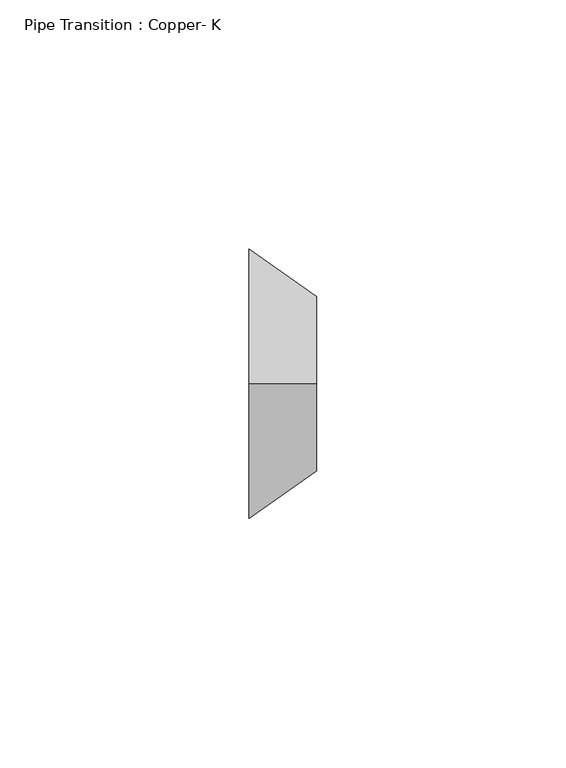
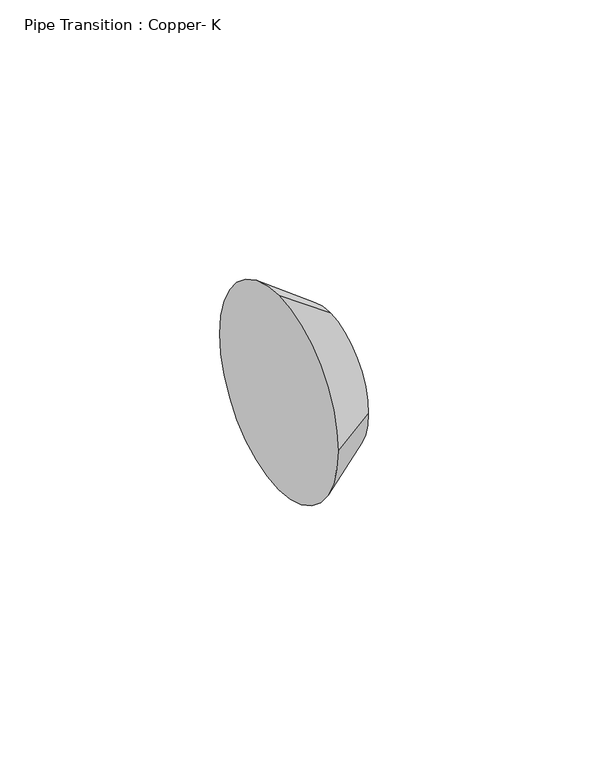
"""IFC4 building model written with IfcOpenShell, lengths in millimetres: pipe fitting geometry, Pipe Transition : Copper- K."""

from ifc_helpers import new_model, si_unit, frame, origin, place, context, project, spatial, polyline, circle_curve, source, transform, mapped, element, save
from ifc_brep_helpers import plane_surface, revolved_surface, advanced_brep


def pipe_transition_copper_k_17d9deb3(model_context):
    return source(origin(), model_context, "Body", "AdvancedBrep", [
        advanced_brep(
        [(13.49375, 0.0, 17.4625), (13.49375, -17.4625, 0.0), (13.49375, 0.0, -17.4625), (13.49375, 17.4625, 0.0), (0.0, 0.0, 26.9875), (0.0, 26.9875, 0.0), (0.0, 0.0, -26.9875), (0.0, -26.9875, 0.0)],
        [
            (0, 1, circle_curve(frame((13.49375, 0.0, 0.0), z_axis=(1.0, 0.0, 0.0), x_axis=(0.0, -1.0, 0.0)), 17.4625)),
            (1, 2, circle_curve(frame((13.49375, 0.0, 0.0), z_axis=(1.0, 0.0, 0.0), x_axis=(0.0, 0.0, -1.0)), 17.4625)),
            (2, 3, circle_curve(frame((13.49375, 0.0, 0.0), z_axis=(1.0, 0.0, 0.0), x_axis=(0.0, 1.0, 0.0)), 17.4625)),
            (3, 0, circle_curve(frame((13.49375, 0.0, 0.0), z_axis=(1.0, 0.0, 0.0), x_axis=(0.0, 0.0, 1.0)), 17.4625)),
            (4, 5, circle_curve(frame((0.0, 0.0, 0.0), z_axis=(-1.0, 0.0, 0.0), x_axis=(0.0, 0.0, 1.0)), 26.9875)),
            (5, 6, circle_curve(frame((0.0, 0.0, 0.0), z_axis=(-1.0, 0.0, 0.0), x_axis=(0.0, 1.0, 0.0)), 26.9875)),
            (6, 7, circle_curve(frame((0.0, 0.0, 0.0), z_axis=(-1.0, 0.0, 0.0), x_axis=(0.0, 0.0, -1.0)), 26.9875)),
            (7, 4, circle_curve(frame((0.0, 0.0, 0.0), z_axis=(-1.0, 0.0, 0.0), x_axis=(0.0, -1.0, 0.0)), 26.9875)),
            (4, 0),
            (3, 5),
            (2, 6),
            (1, 7),
        ],
        [
            plane_surface(frame((13.49375, 0.0, 0.0), z_axis=(1.0, 0.0, 0.0), x_axis=(0.0, 1.0, 0.0))),
            plane_surface(frame((0.0, 0.0, 0.0), z_axis=(-1.0, 0.0, 0.0), x_axis=(0.0, 1.0, 0.0))),
            revolved_surface(polyline([(13.493749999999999, 0.0, 17.4625000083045), (0.0, 0.0, 26.9875)]), (38.2322917, 0.0, 0.0), (-1.0, 0.0, 0.0)),
            revolved_surface(polyline([(13.493749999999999, 17.4625000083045, 0.0), (0.0, 26.9875, 0.0)]), (38.2322917, 0.0, 0.0), (-1.0, 0.0, 0.0)),
            revolved_surface(polyline([(13.493749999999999, 0.0, -17.4625000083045), (0.0, 0.0, -26.9875)]), (38.2322917, 0.0, 0.0), (-1.0, 0.0, 0.0)),
            revolved_surface(polyline([(13.493749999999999, -17.4625000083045, 0.0), (0.0, -26.9875, 0.0)]), (38.2322917, 0.0, 0.0), (-1.0, 0.0, 0.0)),
        ],
        [
            (0, [[1, 2, 3, 4]]),
            (1, [[5, 6, 7, 8]]),
            (2, [[9, -4, 10, -5]]),
            (3, [[-10, -3, 11, -6]]),
            (4, [[-11, -2, 12, -7]]),
            (5, [[-12, -1, -9, -8]]),
        ],
    ),
        advanced_brep(
        [(13.49375, 0.0, 17.4625), (13.49375, -17.4625, 0.0), (13.49375, 0.0, -17.4625), (13.49375, 17.4625, 0.0), (0.0, 0.0, 26.9875), (0.0, 26.9875, 0.0), (0.0, 0.0, -26.9875), (0.0, -26.9875, 0.0)],
        [
            (0, 1, circle_curve(frame((13.49375, 0.0, 0.0), z_axis=(1.0, 0.0, 0.0), x_axis=(0.0, -1.0, 0.0)), 17.4625)),
            (1, 2, circle_curve(frame((13.49375, 0.0, 0.0), z_axis=(1.0, 0.0, 0.0), x_axis=(0.0, 0.0, -1.0)), 17.4625)),
            (2, 3, circle_curve(frame((13.49375, 0.0, 0.0), z_axis=(1.0, 0.0, 0.0), x_axis=(0.0, 1.0, 0.0)), 17.4625)),
            (3, 0, circle_curve(frame((13.49375, 0.0, 0.0), z_axis=(1.0, 0.0, 0.0), x_axis=(0.0, 0.0, 1.0)), 17.4625)),
            (4, 5, circle_curve(frame((0.0, 0.0, 0.0), z_axis=(-1.0, 0.0, 0.0), x_axis=(0.0, 0.0, 1.0)), 26.9875)),
            (5, 6, circle_curve(frame((0.0, 0.0, 0.0), z_axis=(-1.0, 0.0, 0.0), x_axis=(0.0, 1.0, 0.0)), 26.9875)),
            (6, 7, circle_curve(frame((0.0, 0.0, 0.0), z_axis=(-1.0, 0.0, 0.0), x_axis=(0.0, 0.0, -1.0)), 26.9875)),
            (7, 4, circle_curve(frame((0.0, 0.0, 0.0), z_axis=(-1.0, 0.0, 0.0), x_axis=(0.0, -1.0, 0.0)), 26.9875)),
            (4, 0),
            (3, 5),
            (2, 6),
            (1, 7),
        ],
        [
            plane_surface(frame((13.49375, 0.0, 0.0), z_axis=(1.0, 0.0, 0.0), x_axis=(0.0, 1.0, 0.0))),
            plane_surface(frame((0.0, 0.0, 0.0), z_axis=(-1.0, 0.0, 0.0), x_axis=(0.0, 1.0, 0.0))),
            revolved_surface(polyline([(13.493749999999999, 0.0, 17.4625000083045), (0.0, 0.0, 26.9875)]), (38.2322917, 0.0, 0.0), (-1.0, 0.0, 0.0)),
            revolved_surface(polyline([(13.493749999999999, 17.4625000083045, 0.0), (0.0, 26.9875, 0.0)]), (38.2322917, 0.0, 0.0), (-1.0, 0.0, 0.0)),
            revolved_surface(polyline([(13.493749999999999, 0.0, -17.4625000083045), (0.0, 0.0, -26.9875)]), (38.2322917, 0.0, 0.0), (-1.0, 0.0, 0.0)),
            revolved_surface(polyline([(13.493749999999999, -17.4625000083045, 0.0), (0.0, -26.9875, 0.0)]), (38.2322917, 0.0, 0.0), (-1.0, 0.0, 0.0)),
        ],
        [
            (0, [[1, 2, 3, 4]]),
            (1, [[5, 6, 7, 8]]),
            (2, [[9, -4, 10, -5]]),
            (3, [[-10, -3, 11, -6]]),
            (4, [[-11, -2, 12, -7]]),
            (5, [[-12, -1, -9, -8]]),
        ],
    ),
    ])


if __name__ == "__main__":
    model = new_model("IFC4")
    model_context = context("Model", 3, world=origin())
    ifc_project = project(units=[si_unit("LENGTHUNIT", "METRE", prefix="MILLI")], contexts=[model_context])
    site = spatial("IfcSite", under=ifc_project)
    building = spatial("IfcBuilding", under=site)
    placement = place(None, origin())
    pipe_transition_copper_k_shape = pipe_transition_copper_k_17d9deb3(model_context)
    element("IfcPipeFitting", 1, ObjectType="Pipe Transition : Copper- K", at=placement, inside=building, context=model_context, shape_type="MappedRepresentation", body=[
        mapped(pipe_transition_copper_k_shape, transform((0.0, 0.0, 0.0), x_axis=(1.0, 0.0, 0.0), y_axis=(0.0, 1.0, 0.0), z_axis=(0.0, 0.0, 1.0))),
    ])
    save(model, "model.ifc")
